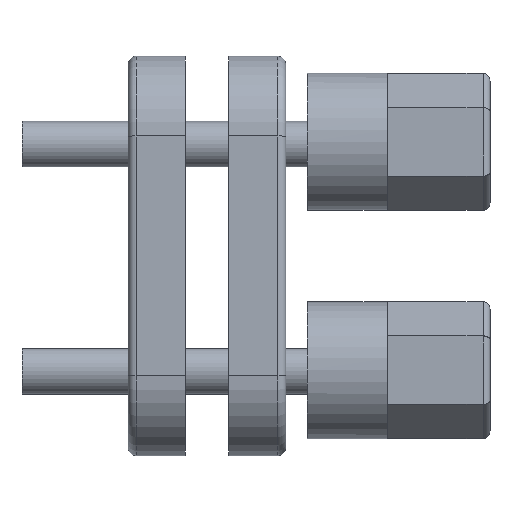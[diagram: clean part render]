
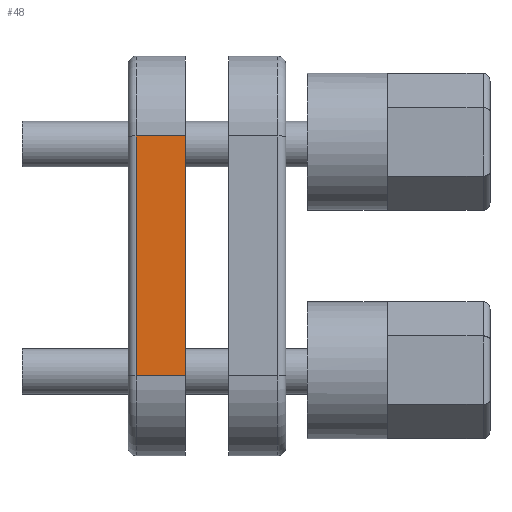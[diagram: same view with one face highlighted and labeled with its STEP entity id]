
A CAD part, top view. The second image highlights one B-rep face of the part: STEP entity #48.
In plain terms, the highlighted planar face has unit normal (0, 0, 1).
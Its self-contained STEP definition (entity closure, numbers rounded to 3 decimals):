
#48 = ADVANCED_FACE('',(#49),#63,.T.);
#49 = FACE_BOUND('',#50,.T.);
#50 = EDGE_LOOP('',(#51,#86,#114,#142));
#51 = ORIENTED_EDGE('',*,*,#52,.T.);
#52 = EDGE_CURVE('',#53,#55,#57,.T.);
#53 = VERTEX_POINT('',#54);
#54 = CARTESIAN_POINT('',(0.7,-10.5,7.5));
#55 = VERTEX_POINT('',#56);
#56 = CARTESIAN_POINT('',(5.,-10.5,7.5));
#57 = SURFACE_CURVE('',#58,(#62,#74),.PCURVE_S1.);
#58 = LINE('',#59,#60);
#59 = CARTESIAN_POINT('',(0.,-10.5,7.5));
#60 = VECTOR('',#61,1.);
#61 = DIRECTION('',(1.,0.,0.));
#62 = PCURVE('',#63,#68);
#63 = PLANE('',#64);
#64 = AXIS2_PLACEMENT_3D('',#65,#66,#67);
#65 = CARTESIAN_POINT('',(0.,-17.5,7.5));
#66 = DIRECTION('',(0.,0.,1.));
#67 = DIRECTION('',(0.,1.,0.));
#68 = DEFINITIONAL_REPRESENTATION('',(#69),#73);
#69 = LINE('',#70,#71);
#70 = CARTESIAN_POINT('',(7.,0.));
#71 = VECTOR('',#72,1.);
#72 = DIRECTION('',(0.,-1.));
#73 = ( GEOMETRIC_REPRESENTATION_CONTEXT(2) 
PARAMETRIC_REPRESENTATION_CONTEXT() REPRESENTATION_CONTEXT('2D SPACE',''
  ) );
#74 = PCURVE('',#75,#80);
#75 = CYLINDRICAL_SURFACE('',#76,7.);
#76 = AXIS2_PLACEMENT_3D('',#77,#78,#79);
#77 = CARTESIAN_POINT('',(0.,-10.5,0.5));
#78 = DIRECTION('',(1.,0.,0.));
#79 = DIRECTION('',(0.,0.,1.));
#80 = DEFINITIONAL_REPRESENTATION('',(#81),#85);
#81 = LINE('',#82,#83);
#82 = CARTESIAN_POINT('',(0.,0.));
#83 = VECTOR('',#84,1.);
#84 = DIRECTION('',(0.,1.));
#85 = ( GEOMETRIC_REPRESENTATION_CONTEXT(2) 
PARAMETRIC_REPRESENTATION_CONTEXT() REPRESENTATION_CONTEXT('2D SPACE',''
  ) );
#86 = ORIENTED_EDGE('',*,*,#87,.T.);
#87 = EDGE_CURVE('',#55,#88,#90,.T.);
#88 = VERTEX_POINT('',#89);
#89 = CARTESIAN_POINT('',(5.,10.5,7.5));
#90 = SURFACE_CURVE('',#91,(#95,#102),.PCURVE_S1.);
#91 = LINE('',#92,#93);
#92 = CARTESIAN_POINT('',(5.,-17.5,7.5));
#93 = VECTOR('',#94,1.);
#94 = DIRECTION('',(0.,1.,0.));
#95 = PCURVE('',#63,#96);
#96 = DEFINITIONAL_REPRESENTATION('',(#97),#101);
#97 = LINE('',#98,#99);
#98 = CARTESIAN_POINT('',(0.,-5.));
#99 = VECTOR('',#100,1.);
#100 = DIRECTION('',(1.,0.));
#101 = ( GEOMETRIC_REPRESENTATION_CONTEXT(2) 
PARAMETRIC_REPRESENTATION_CONTEXT() REPRESENTATION_CONTEXT('2D SPACE',''
  ) );
#102 = PCURVE('',#103,#108);
#103 = PLANE('',#104);
#104 = AXIS2_PLACEMENT_3D('',#105,#106,#107);
#105 = CARTESIAN_POINT('',(5.,0.,0.));
#106 = DIRECTION('',(-1.,0.,0.));
#107 = DIRECTION('',(0.,-1.,0.));
#108 = DEFINITIONAL_REPRESENTATION('',(#109),#113);
#109 = LINE('',#110,#111);
#110 = CARTESIAN_POINT('',(17.5,7.5));
#111 = VECTOR('',#112,1.);
#112 = DIRECTION('',(-1.,0.));
#113 = ( GEOMETRIC_REPRESENTATION_CONTEXT(2) 
PARAMETRIC_REPRESENTATION_CONTEXT() REPRESENTATION_CONTEXT('2D SPACE',''
  ) );
#114 = ORIENTED_EDGE('',*,*,#115,.F.);
#115 = EDGE_CURVE('',#116,#88,#118,.T.);
#116 = VERTEX_POINT('',#117);
#117 = CARTESIAN_POINT('',(0.7,10.5,7.5));
#118 = SURFACE_CURVE('',#119,(#123,#130),.PCURVE_S1.);
#119 = LINE('',#120,#121);
#120 = CARTESIAN_POINT('',(0.,10.5,7.5));
#121 = VECTOR('',#122,1.);
#122 = DIRECTION('',(1.,0.,0.));
#123 = PCURVE('',#63,#124);
#124 = DEFINITIONAL_REPRESENTATION('',(#125),#129);
#125 = LINE('',#126,#127);
#126 = CARTESIAN_POINT('',(28.,0.));
#127 = VECTOR('',#128,1.);
#128 = DIRECTION('',(0.,-1.));
#129 = ( GEOMETRIC_REPRESENTATION_CONTEXT(2) 
PARAMETRIC_REPRESENTATION_CONTEXT() REPRESENTATION_CONTEXT('2D SPACE',''
  ) );
#130 = PCURVE('',#131,#136);
#131 = CYLINDRICAL_SURFACE('',#132,7.);
#132 = AXIS2_PLACEMENT_3D('',#133,#134,#135);
#133 = CARTESIAN_POINT('',(0.,10.5,0.5));
#134 = DIRECTION('',(1.,0.,0.));
#135 = DIRECTION('',(0.,0.,1.));
#136 = DEFINITIONAL_REPRESENTATION('',(#137),#141);
#137 = LINE('',#138,#139);
#138 = CARTESIAN_POINT('',(-0.,0.));
#139 = VECTOR('',#140,1.);
#140 = DIRECTION('',(-0.,1.));
#141 = ( GEOMETRIC_REPRESENTATION_CONTEXT(2) 
PARAMETRIC_REPRESENTATION_CONTEXT() REPRESENTATION_CONTEXT('2D SPACE',''
  ) );
#142 = ORIENTED_EDGE('',*,*,#143,.F.);
#143 = EDGE_CURVE('',#53,#116,#144,.T.);
#144 = SURFACE_CURVE('',#145,(#149,#156),.PCURVE_S1.);
#145 = LINE('',#146,#147);
#146 = CARTESIAN_POINT('',(0.7,-10.5,7.5));
#147 = VECTOR('',#148,1.);
#148 = DIRECTION('',(0.,1.,0.));
#149 = PCURVE('',#63,#150);
#150 = DEFINITIONAL_REPRESENTATION('',(#151),#155);
#151 = LINE('',#152,#153);
#152 = CARTESIAN_POINT('',(7.,-0.7));
#153 = VECTOR('',#154,1.);
#154 = DIRECTION('',(1.,0.));
#155 = ( GEOMETRIC_REPRESENTATION_CONTEXT(2) 
PARAMETRIC_REPRESENTATION_CONTEXT() REPRESENTATION_CONTEXT('2D SPACE',''
  ) );
#156 = PCURVE('',#157,#162);
#157 = CYLINDRICAL_SURFACE('',#158,0.7);
#158 = AXIS2_PLACEMENT_3D('',#159,#160,#161);
#159 = CARTESIAN_POINT('',(0.7,-10.5,6.8));
#160 = DIRECTION('',(0.,1.,0.));
#161 = DIRECTION('',(0.,0.,1.));
#162 = DEFINITIONAL_REPRESENTATION('',(#163),#167);
#163 = LINE('',#164,#165);
#164 = CARTESIAN_POINT('',(-0.,0.));
#165 = VECTOR('',#166,1.);
#166 = DIRECTION('',(-0.,1.));
#167 = ( GEOMETRIC_REPRESENTATION_CONTEXT(2) 
PARAMETRIC_REPRESENTATION_CONTEXT() REPRESENTATION_CONTEXT('2D SPACE',''
  ) );
